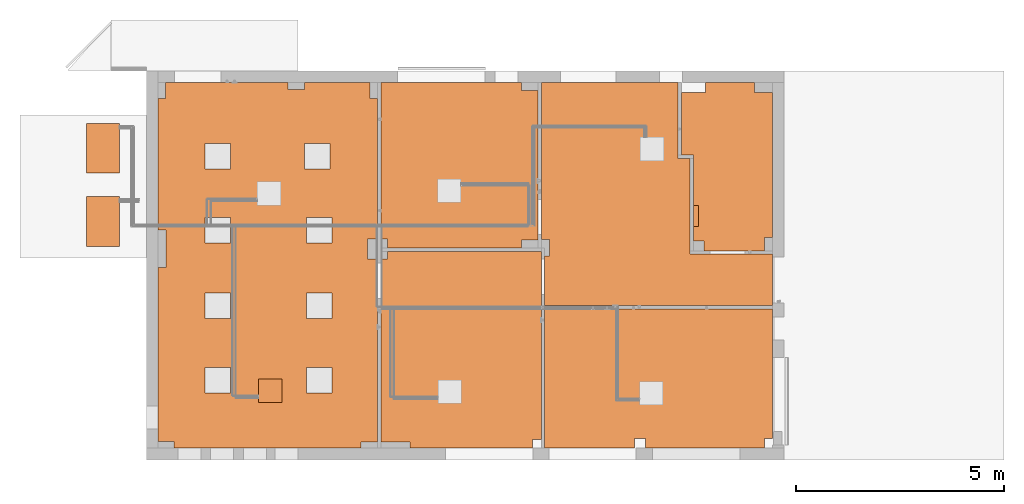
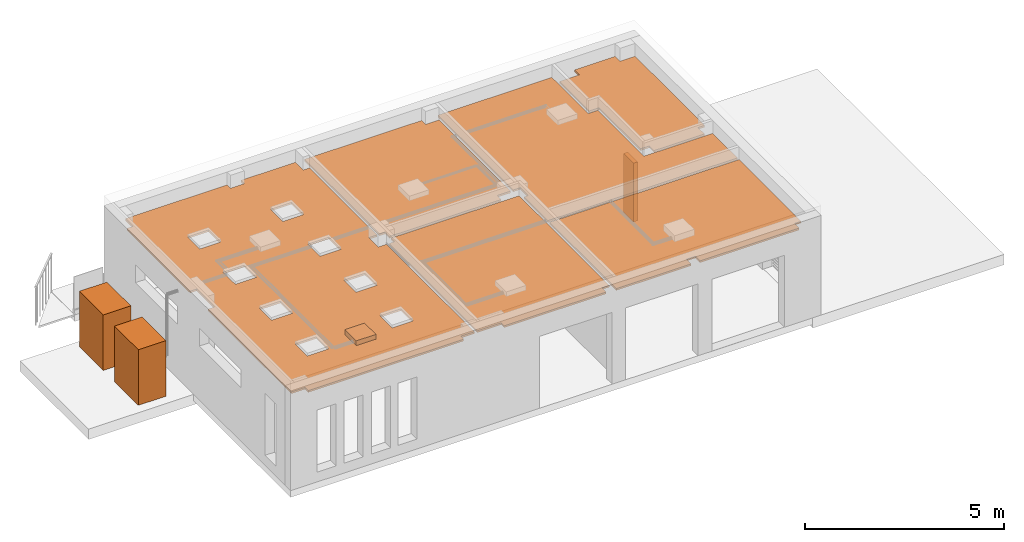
# One storey, part 20 of 22: 10 proxies.
"""IFC2X3 building model written with IfcOpenShell, lengths in millimetres."""

from ifc_helpers import new_model, entity, si_unit, converted_unit, derived_unit, direction, frame, frame_2d, origin, origin_2d_with_axis, place, context, subcontext, project, spatial, polyline, rectangle, outline, extrude, source, transform, mapped, material, type_object, type_shapes, element, save


model = new_model("IFC2X3")

# Units and contexts
model_context = context("Model", 3, precision=0.01, world=origin(), true_north=direction((6.123031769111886e-17, 1.0)))
body_context = subcontext(model_context, "Body", "Model", "MODEL_VIEW")
ifc_project = project(units=[si_unit("LENGTHUNIT", "METRE", prefix="MILLI"), si_unit("AREAUNIT", "SQUARE_METRE"), si_unit("VOLUMEUNIT", "CUBIC_METRE"), converted_unit("PLANEANGLEUNIT", "DEGREE", entity("IfcRatioMeasure", 0.017453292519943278), si_unit("PLANEANGLEUNIT", "RADIAN"), dimensions=[0, 0, 0, 0, 0, 0, 0]), si_unit("MASSUNIT", "GRAM", prefix="KILO"), derived_unit("MASSDENSITYUNIT", [(si_unit("MASSUNIT", "GRAM", prefix="KILO"), 1), (si_unit("LENGTHUNIT", "METRE"), -3)]), derived_unit("MOMENTOFINERTIAUNIT", [(si_unit("LENGTHUNIT", "METRE"), 4)]), si_unit("TIMEUNIT", "SECOND"), si_unit("FREQUENCYUNIT", "HERTZ"), si_unit("THERMODYNAMICTEMPERATUREUNIT", "DEGREE_CELSIUS"), derived_unit("THERMALTRANSMITTANCEUNIT", [(si_unit("MASSUNIT", "GRAM", prefix="KILO"), 1), (si_unit("THERMODYNAMICTEMPERATUREUNIT", "KELVIN"), -1), (si_unit("TIMEUNIT", "SECOND"), -3)]), derived_unit("VOLUMETRICFLOWRATEUNIT", [(si_unit("LENGTHUNIT", "METRE"), 3), (si_unit("TIMEUNIT", "SECOND"), -1)]), derived_unit("MASSFLOWRATEUNIT", [(si_unit("MASSUNIT", "GRAM", prefix="KILO"), 1), (si_unit("TIMEUNIT", "SECOND"), -1)]), derived_unit("ROTATIONALFREQUENCYUNIT", [(si_unit("TIMEUNIT", "SECOND"), -1)]), si_unit("ELECTRICCURRENTUNIT", "AMPERE"), si_unit("ELECTRICVOLTAGEUNIT", "VOLT"), si_unit("POWERUNIT", "WATT"), si_unit("FORCEUNIT", "NEWTON", prefix="KILO"), si_unit("ILLUMINANCEUNIT", "LUX"), si_unit("LUMINOUSFLUXUNIT", "LUMEN"), si_unit("LUMINOUSINTENSITYUNIT", "CANDELA"), derived_unit("USERDEFINED", [(si_unit("MASSUNIT", "GRAM", prefix="KILO"), -1), (si_unit("LENGTHUNIT", "METRE"), -2), (si_unit("TIMEUNIT", "SECOND"), 3), (si_unit("LUMINOUSFLUXUNIT", "LUMEN"), 1)]), derived_unit("SOUNDPOWERUNIT", [(si_unit("MASSUNIT", "GRAM", prefix="KILO"), 1), (si_unit("LENGTHUNIT", "METRE"), 2), (si_unit("TIMEUNIT", "SECOND"), -3)]), derived_unit("SOUNDPRESSUREUNIT", [(si_unit("MASSUNIT", "GRAM", prefix="KILO"), 1), (si_unit("LENGTHUNIT", "METRE"), -1), (si_unit("TIMEUNIT", "SECOND"), -2)]), derived_unit("LINEARVELOCITYUNIT", [(si_unit("LENGTHUNIT", "METRE"), 1), (si_unit("TIMEUNIT", "SECOND"), -1)]), si_unit("PRESSUREUNIT", "PASCAL"), derived_unit("USERDEFINED", [(si_unit("LENGTHUNIT", "METRE"), -2), (si_unit("MASSUNIT", "GRAM", prefix="KILO"), 1), (si_unit("TIMEUNIT", "SECOND"), -2)]), derived_unit("LINEARFORCEUNIT", [(si_unit("MASSUNIT", "GRAM", prefix="KILO"), 1), (si_unit("LENGTHUNIT", "METRE"), 1), (si_unit("TIMEUNIT", "SECOND"), -2), (si_unit("LENGTHUNIT", "METRE"), -1)]), derived_unit("PLANARFORCEUNIT", [(si_unit("MASSUNIT", "GRAM", prefix="KILO"), 1), (si_unit("LENGTHUNIT", "METRE"), 1), (si_unit("TIMEUNIT", "SECOND"), -2), (si_unit("LENGTHUNIT", "METRE"), -2)])], contexts=[model_context])

# Site, building, storey
site_placement = place(None, origin())
site = spatial("IfcSite", under=ifc_project, at=site_placement, Name="Default", CompositionType="ELEMENT")
building_placement = place(site_placement, origin())
building = spatial("IfcBuilding", under=site, at=building_placement, CompositionType="ELEMENT")
storey_placement = place(building_placement, frame((0.0, 0.0, 3300.0)))
storey = spatial("IfcBuildingStorey", under=building, at=storey_placement, Name="Level 2", CompositionType="ELEMENT", Elevation=3299.99999999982)

# Proxies
ifc_material_1 = material(Name="<Unnamed>")
building_element_proxy_type_1 = type_object("IfcBuildingElementProxyType", Name="Outdoor  LG simple box KRIPIS v1 SYSTEMS:ARUN100LTE4:ARUN100LTE4 : Outdoor  LG simple box KRIPIS v1 SYSTEMS:ARUN100LTE4", PredefinedType="NOTDEFINED", material=ifc_material_1)
shared_shape_1 = source(origin(), body_context, "Body", "SweptSolid", [
    extrude(rectangle(XDim=1200.0000000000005, YDim=800.0, at=frame_2d((-5.684341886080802e-14, 0.0), x_axis=(1.0, 0.0))), frame((-10466.3364234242, 1663.16455478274, 3300.756524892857), z_axis=(0.0, 0.0, 1.0), x_axis=(0.0, -1.0, 0.0)), (0.0, 0.0, 1.0), 1700.0000000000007),
])
type_shapes(building_element_proxy_type_1, [shared_shape_1])
proxy_1_placement = place(storey_placement, frame((0.0, 0.0, -3300.0)))
element("IfcBuildingElementProxy", 1, at=proxy_1_placement, inside=storey, type_object=building_element_proxy_type_1, material=ifc_material_1, context=body_context, shape_type="MappedRepresentation", body=[
    mapped(shared_shape_1, transform((0.0, 0.0, 0.0), scale=1.0)),
])
ifc_material_2 = material(Name="Ceiling Tile 600 x 600")
building_element_proxy_type_2 = type_object("IfcBuildingElementProxyType", Name="Compound Ceiling:My ceiling mineral fiber:My ceiling mineral fiber : Compound Ceiling:My ceiling mineral fiber", PredefinedType="NOTDEFINED", material=ifc_material_2)
shared_shape_2 = source(origin(), body_context, "Body", "SweptSolid", [
    extrude(outline(polyline([(-32.441870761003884, 2561.6153723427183), (-32.441870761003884, 2753.6153723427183), (-3201.9304091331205, 2753.6153723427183), (-3201.9304091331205, 2571.6153723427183), (-3591.0545527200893, 2571.6153723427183), (-3591.0545527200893, -374.36537234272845), (-3421.930409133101, -374.36537234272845), (-3421.930409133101, -774.3653723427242), (-3591.0545527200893, -774.3653723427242), (-3591.0545527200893, -2348.3846276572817), (-3201.930409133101, -2348.3846276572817), (-3201.930409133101, -2534.3653723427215), (180.56959086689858, -2534.3653723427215), (180.56959086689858, -2296.8653723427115), (655.5695908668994, -2296.8653723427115), (655.5695908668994, -2534.365372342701), (5066.753998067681, -2534.365372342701), (5066.753998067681, -2139.3653723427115), (5215.94544728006, -2139.3653723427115), (5215.94544728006, 2361.6153723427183), (5053.945447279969, 2361.6153723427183), (5053.945447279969, 2753.6153723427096), (867.5581292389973, 2753.6153723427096), (867.5581292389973, 2561.6153723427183), (-32.441870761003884, 2561.6153723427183)]), holes=[polyline([(1479.95399806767, 1010.8346276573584), (1479.95399806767, 1620.4346276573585), (2089.55399806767, 1620.4346276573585), (2089.55399806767, 1010.8346276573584), (1479.95399806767, 1010.8346276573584)]), polyline([(1479.95399806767, -1439.1653723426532), (1479.95399806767, -829.5653723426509), (2089.55399806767, -829.5653723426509), (2089.55399806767, -1439.1653723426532), (1479.95399806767, -1439.1653723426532)]), polyline([(3279.95400606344, -1439.1653723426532), (3279.95400606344, -829.5653723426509), (3889.5540060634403, -829.5653723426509), (3889.5540060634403, -1439.1653723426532), (3279.95400606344, -1439.1653723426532)]), polyline([(3279.95400606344, 1010.8346276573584), (3279.95400606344, 1620.4346276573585), (3889.5540060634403, 1620.4346276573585), (3889.5540060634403, 1010.8346276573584), (3279.95400606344, 1010.8346276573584)]), polyline([(-2120.04599396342, 1010.8346276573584), (-2120.04599396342, 1620.4346276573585), (-1510.44599396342, 1620.4346276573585), (-1510.44599396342, 1010.8346276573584), (-2120.04599396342, 1010.8346276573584)]), polyline([(-335.8843583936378, 1010.8346276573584), (-335.8843583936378, 1620.4346276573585), (273.7156416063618, 1620.4346276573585), (273.7156416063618, 1010.8346276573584), (-335.8843583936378, 1010.8346276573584)]), polyline([(-335.8843583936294, -1439.1653723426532), (-335.8843583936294, -829.5653723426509), (273.71564160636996, -829.5653723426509), (273.71564160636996, -1439.1653723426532), (-335.8843583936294, -1439.1653723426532)]), polyline([(-2120.04599396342, -1389.1653723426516), (-2120.04599396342, -779.5653723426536), (-1510.44599396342, -779.5653723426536), (-1510.44599396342, -1389.1653723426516), (-2120.04599396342, -1389.1653723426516)])]), frame((-6391.7211510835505, 1420.1069605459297, 5900.0), z_axis=(0.0, 0.0, -1.0), x_axis=(0.0, -1.0, 0.0)), (0.0, 0.0, -1.0), 57.000000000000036),
])
type_shapes(building_element_proxy_type_2, [shared_shape_2])
proxy_2_placement = place(storey_placement, frame((0.0, 0.0, -3300.0)))
element("IfcBuildingElementProxy", 2, at=proxy_2_placement, inside=storey, type_object=building_element_proxy_type_2, material=ifc_material_2, context=body_context, shape_type="MappedRepresentation", body=[
    mapped(shared_shape_2, transform((0.0, 0.0, 0.0), scale=1.0)),
])
building_element_proxy_type_3 = type_object("IfcBuildingElementProxyType", Name="Compound Ceiling:My ceiling mineral fiber:My ceiling mineral fiber : Compound Ceiling:My ceiling mineral fiber", PredefinedType="NOTDEFINED", material=ifc_material_2)
shared_shape_3 = source(origin(), body_context, "Body", "SweptSolid", [
    extrude(outline(polyline([(-1986.9804578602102, -1638.9156594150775), (1246.4869719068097, -1638.9156594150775), (1246.4869719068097, -1439.4271210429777), (1636.4869719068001, -1439.4271210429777), (1636.4869719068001, 2150.572878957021), (1246.4869719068, 2150.572878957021), (1246.4869719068, 2349.697022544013), (-2142.4804578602, 2349.697022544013), (-2142.4804578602, -1421.9271210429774), (-1986.9804578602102, -1421.9271210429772), (-1986.9804578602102, -1638.9156594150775)])), frame((-1632.87532088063, 2661.464490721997, 5900.0)), (0.0, 0.0, 1.0), 57.000000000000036),
])
type_shapes(building_element_proxy_type_3, [shared_shape_3])
proxy_3_placement = place(storey_placement, frame((0.0, 0.0, -3300.0)))
element("IfcBuildingElementProxy", 3, at=proxy_3_placement, inside=storey, type_object=building_element_proxy_type_3, material=ifc_material_2, context=body_context, shape_type="MappedRepresentation", body=[
    mapped(shared_shape_3, transform((0.0, 0.0, 0.0), scale=1.0)),
])
building_element_proxy_type_4 = type_object("IfcBuildingElementProxyType", Name="Compound Ceiling:My ceiling mineral fiber:My ceiling mineral fiber : Compound Ceiling:My ceiling mineral fiber", PredefinedType="NOTDEFINED", material=ifc_material_2)
shared_shape_4 = source(origin(), body_context, "Body", "SweptSolid", [
    extrude(outline(polyline([(-3074.2061828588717, -763.8134611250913), (-908.4484542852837, -763.8134611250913), (-908.4484542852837, -531.8134611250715), (-648.4484542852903, -531.8134611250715), (-648.4484542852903, -763.8134611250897), (2219.5515457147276, -763.8134611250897), (2219.5515457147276, -525.937604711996), (2411.5515457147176, -525.937604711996), (2411.5515457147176, 2585.3779880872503), (-3074.2061828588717, 2585.3779880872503), (-3074.2061828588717, -763.8134611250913)])), frame((3241.817833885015, -3032.0250256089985, 5900.0)), (0.0, 0.0, 1.0), 57.000000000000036),
])
type_shapes(building_element_proxy_type_4, [shared_shape_4])
proxy_4_placement = place(storey_placement, frame((0.0, 0.0, -3300.0)))
element("IfcBuildingElementProxy", 4, at=proxy_4_placement, inside=storey, type_object=building_element_proxy_type_4, material=ifc_material_2, context=body_context, shape_type="MappedRepresentation", body=[
    mapped(shared_shape_4, transform((0.0, 0.0, 0.0), scale=1.0)),
])
building_element_proxy_type_5 = type_object("IfcBuildingElementProxyType", Name="Compound Ceiling:My ceiling mineral fiber mpania:My ceiling mineral fiber mpania : Compound Ceiling:My ceiling mineral fiber mpania", PredefinedType="NOTDEFINED", material=ifc_material_2)
shared_shape_5 = source(origin(), body_context, "Body", "SweptSolid", [
    extrude(outline(polyline([(-1046.0757533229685, -232.52933262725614), (-1046.0757533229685, -1730.8892739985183), (-470.9773377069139, -1730.8892739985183), (-470.9773377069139, -1977.5134175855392), (702.3359221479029, -1977.5134175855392), (702.3359221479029, -1730.8892739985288), (1141.8359221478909, -1730.8892739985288), (1141.8359221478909, 1754.470667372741), (949.0226622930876, 1754.470667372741), (949.0226622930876, 2077.8799634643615), (-510.16407785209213, 2077.8799634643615), (-510.16407785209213, 1839.4706673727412), (-765.9773377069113, 1839.4706673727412), (-765.9773377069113, -232.52933262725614), (-1046.0757533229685, -232.52933262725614)])), frame((4511.533457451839, 3033.648095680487, 5900.0), z_axis=(0.0, 0.0, -1.0), x_axis=(1.0, 0.0, 0.0)), (0.0, 0.0, -1.0), 57.000000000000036),
])
type_shapes(building_element_proxy_type_5, [shared_shape_5])
proxy_5_placement = place(storey_placement, frame((0.0, 0.0, -3300.0)))
element("IfcBuildingElementProxy", 5, at=proxy_5_placement, inside=storey, type_object=building_element_proxy_type_5, material=ifc_material_2, context=body_context, shape_type="MappedRepresentation", body=[
    mapped(shared_shape_5, transform((0.0, 0.0, 0.0), scale=1.0)),
])
building_element_proxy_type_6 = type_object("IfcBuildingElementProxyType", Name="Compound Ceiling:My ceiling mineral fiber:My ceiling mineral fiber : Compound Ceiling:My ceiling mineral fiber", PredefinedType="NOTDEFINED", material=ifc_material_2)
shared_shape_6 = source(origin(), body_context, "Body", "SweptSolid", [
    extrude(outline(polyline([(-2121.09137506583, 562.3774518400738), (-2121.09137506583, -3216.2352301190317), (1176.7546780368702, -3216.2352301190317), (1176.7546780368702, -1389.25114516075), (1456.85309365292, -1389.25114516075), (1456.85309365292, 921.158150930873), (3446.666353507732, 921.158150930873), (3446.666353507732, 2159.5733206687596), (-2039.09137506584, 2159.5733206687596), (-2039.09137506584, 962.3774518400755), (-1920.0913750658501, 962.3774518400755), (-1920.0913750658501, 562.3774518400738), (-2121.09137506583, 562.3774518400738)])), frame((2206.7030260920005, 1794.9262831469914, 5900.0), z_axis=(0.0, 0.0, -1.0), x_axis=(1.0, 0.0, 0.0)), (0.0, 0.0, -1.0), 57.000000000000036),
])
type_shapes(building_element_proxy_type_6, [shared_shape_6])
proxy_6_placement = place(storey_placement, frame((0.0, 0.0, -3300.0)))
element("IfcBuildingElementProxy", 6, at=proxy_6_placement, inside=storey, type_object=building_element_proxy_type_6, material=ifc_material_2, context=body_context, shape_type="MappedRepresentation", body=[
    mapped(shared_shape_6, transform((0.0, 0.0, 0.0), scale=1.0)),
])
building_element_proxy_type_7 = type_object("IfcBuildingElementProxyType", Name="Compound Ceiling:My ceiling mineral fiber:My ceiling mineral fiber : Compound Ceiling:My ceiling mineral fiber", PredefinedType="NOTDEFINED", material=ifc_material_2)
shared_shape_7 = source(origin(), body_context, "Body", "SweptSolid", [
    extrude(outline(polyline([(-1671.680457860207, 1782.6769391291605), (-1671.680457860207, -2628.507468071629), (-1516.1804578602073, -2628.507468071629), (-1516.1804578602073, -2804.5189296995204), (2189.2869719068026, -2804.5189296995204), (2189.2869719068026, 1718.48107030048), (1974.2869719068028, 1718.48107030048), (1974.2869719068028, 1931.8683883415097), (-975.7130280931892, 1931.8683883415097), (-975.7130280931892, 1782.6769391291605), (-1671.680457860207, 1782.6769391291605)])), frame((-2103.6753208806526, -1863.9700983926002, 5900.0), z_axis=(0.0, 0.0, -1.0), x_axis=(1.0, 0.0, 0.0)), (0.0, 0.0, -1.0), 57.000000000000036),
])
type_shapes(building_element_proxy_type_7, [shared_shape_7])
proxy_7_placement = place(storey_placement, frame((0.0, 0.0, -3300.0)))
element("IfcBuildingElementProxy", 7, at=proxy_7_placement, inside=storey, type_object=building_element_proxy_type_7, material=ifc_material_2, context=body_context, shape_type="MappedRepresentation", body=[
    mapped(shared_shape_7, transform((0.0, 0.0, 0.0), scale=1.0)),
])
building_element_proxy_type_8 = type_object("IfcBuildingElementProxyType", Name="Outdoor  LG simple box KRIPIS v1 SYSTEMS:ARUN080LTE4:ARUN080LTE4 : Outdoor  LG simple box KRIPIS v1 SYSTEMS:ARUN080LTE4", PredefinedType="NOTDEFINED", material=ifc_material_1)
shared_shape_8 = source(origin(), body_context, "Body", "SweptSolid", [
    extrude(rectangle(XDim=1200.0, YDim=800.0, at=origin_2d_with_axis()), frame((-10466.3364234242, 3424.16278932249, 3299.2201873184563), z_axis=(0.0, 0.0, 1.0), x_axis=(0.0, -1.0, 0.0)), (0.0, 0.0, 1.0), 1700.0),
])
type_shapes(building_element_proxy_type_8, [shared_shape_8])
proxy_8_placement = place(storey_placement, frame((0.0, 0.0, -3300.0)))
element("IfcBuildingElementProxy", 8, at=proxy_8_placement, inside=storey, type_object=building_element_proxy_type_8, material=ifc_material_1, context=body_context, shape_type="MappedRepresentation", body=[
    mapped(shared_shape_8, transform((0.0, 0.0, 0.0), scale=1.0)),
])
building_element_proxy_type_9 = type_object("IfcBuildingElementProxyType", Name="Indoor LG 4way simple box KRIPIS v3 SYSTEMS:ARNU12GTRC4:ARNU12GTRC4 : Indoor LG 4way simple box KRIPIS v3 SYSTEMS:ARNU12GTRC4", PredefinedType="NOTDEFINED", material=ifc_material_1)
shared_shape_9 = source(origin(), body_context, "Body", "SweptSolid", [
    extrude(rectangle(XDim=570.0000000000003, YDim=570.0000000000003, at=origin_2d_with_axis()), frame((-6443.7779879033, -2410.13146363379, 5890.0), z_axis=(0.0, 0.0, 1.0), x_axis=(0.0, 1.0, 0.0)), (0.0, 0.0, 1.0), 214.00000000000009),
])
type_shapes(building_element_proxy_type_9, [shared_shape_9])
proxy_9_placement = place(storey_placement, frame((0.0, 0.0, -3300.0)))
element("IfcBuildingElementProxy", 9, at=proxy_9_placement, inside=storey, type_object=building_element_proxy_type_9, material=ifc_material_1, context=body_context, shape_type="MappedRepresentation", body=[
    mapped(shared_shape_9, transform((0.0, 0.0, 0.0), scale=1.0)),
])

# Space
space_placement = place(storey_placement, origin())
space = spatial("IfcSpace", under=storey, at=space_placement, Name="13", CompositionType="ELEMENT", InteriorOrExteriorSpace="INTERNAL")

# Proxy
building_element_proxy_type_10 = type_object("IfcBuildingElementProxyType", Name="radiator 18 v1:Type 1:Type 1 : radiator 18 v1:Type 1", PredefinedType="NOTDEFINED", material=ifc_material_1)
shared_shape_10 = source(origin(), body_context, "Body", "SweptSolid", [
    extrude(rectangle(XDim=500.00000000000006, YDim=124.99999999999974, at=origin_2d_with_axis()), frame((3808.05611974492, 1795.76813221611, 3500.0), z_axis=(0.0, 0.0, 1.0), x_axis=(0.0, -1.0, 0.0)), (0.0, 0.0, 1.0), 1800.0000000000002),
])
type_shapes(building_element_proxy_type_10, [shared_shape_10])
proxy_10_placement = place(space_placement, frame((0.0, 0.0, -3300.0)))
element("IfcBuildingElementProxy", 10, at=proxy_10_placement, inside=space, type_object=building_element_proxy_type_10, material=ifc_material_1, Name="radiator 18 v1:Type 1:Type 1 : radiator 18 v1:Type 1:Type 1:Type 1 : radiator 18 v1:Type 1 : radiator 18 v1:Type 1:Type 1 : radiator 18 v1:Type 1", ObjectType="radiator 18 v1:Type 1:Type 1 : radiator 18 v1:Type 1:Type 1:Type 1 : radiator 18 v1:Type 1 : radiator 18 v1:Type 1:Type 1 : radiator 18 v1:Type 1", context=body_context, shape_type="MappedRepresentation", body=[
    mapped(shared_shape_10, transform((0.0, 0.0, 0.0), scale=1.0)),
])

save(model, "model.ifc")
